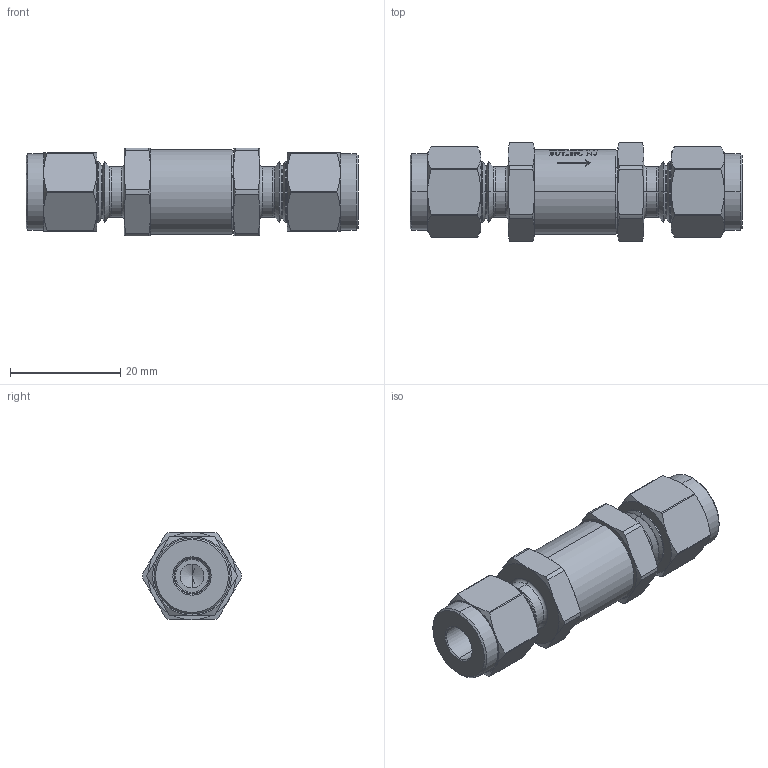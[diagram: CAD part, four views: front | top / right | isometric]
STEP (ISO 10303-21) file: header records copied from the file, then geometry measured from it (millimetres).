
FILE_DESCRIPTION (( 'STEP AP203' ), '1' );
FILE_NAME ('PCV-4T.STEP', '2016-08-19T13:48:25', ( '' ), ( '' ), 'SwSTEP 2.0', 'SolidWorks 2011', '' );
FILE_SCHEMA (( 'CONFIG_CONTROL_DESIGN' ));
Length unit declared in the file: inch
Products named in the file (2): PCV-4T; Part5^PCV-4T_CM
Assembly tree (1 placements, depth 2):
  PCV-4T
    Part5^PCV-4T_CM
Bounding box: 60.13 x 17.91 x 15.88 mm (x, y, z)
Volume: 8772.1 mm3; surface area: 4647.3 mm2
Topology: 1 solids, 1 shells, 409 faces, 1035 edges, 662 vertices
Faces by surface type: plane 168, cone 82, cylinder 79, bspline 68, torus 12
Entity records: 15943 total; most frequent: CARTESIAN_POINT 6484, ORIENTED_EDGE 2062, DIRECTION 1720, EDGE_CURVE 1031, AXIS2_PLACEMENT_3D 671, VERTEX_POINT 662, EDGE_LOOP 447, ADVANCED_FACE 409
